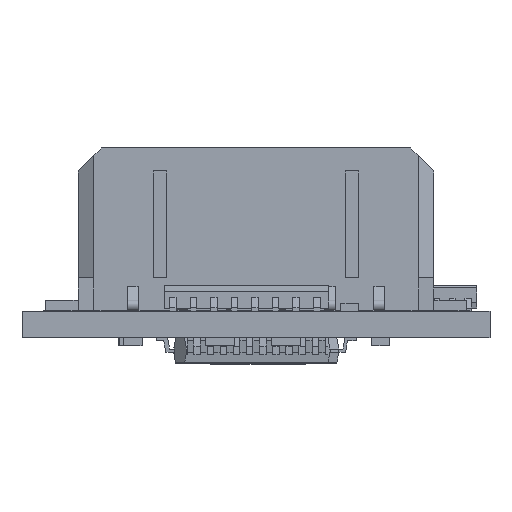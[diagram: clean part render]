
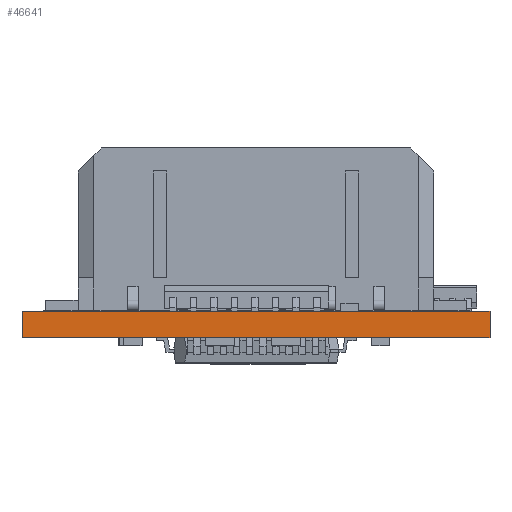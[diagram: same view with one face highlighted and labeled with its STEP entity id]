
A CAD part, front view. The second image highlights one B-rep face of the part: STEP entity #46641.
In plain terms, the highlighted planar face has unit normal (0, -1, 0).
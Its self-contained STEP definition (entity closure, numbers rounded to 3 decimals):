
#529 = EDGE_CURVE ( 'NONE', #20740, #38614, #34700, .T. ) ;
#731 = EDGE_LOOP ( 'NONE', ( #20322, #18443, #30630, #37897 ) ) ;
#2064 = CARTESIAN_POINT ( 'NONE',  ( -9.267, -9.237, 1.6 ) ) ;
#2341 = LINE ( 'NONE', #16296, #41441 ) ;
#2588 = DIRECTION ( 'NONE',  ( 0., 0., -1. ) ) ;
#3253 = CARTESIAN_POINT ( 'NONE',  ( -9.267, -9.237, 1.6 ) ) ;
#3573 = VECTOR ( 'NONE', #2588, 1000. ) ;
#8777 = CARTESIAN_POINT ( 'NONE',  ( -9.267, -9.237, 1.6 ) ) ;
#10636 = LINE ( 'NONE', #2064, #19818 ) ;
#11295 = CARTESIAN_POINT ( 'NONE',  ( -9.267, -9.237, 1.6 ) ) ;
#15263 = DIRECTION ( 'NONE',  ( 0., 0., 1. ) ) ;
#16296 = CARTESIAN_POINT ( 'NONE',  ( 19.233, -9.237, 1.6 ) ) ;
#16495 = CARTESIAN_POINT ( 'NONE',  ( 19.233, -9.237, 0. ) ) ;
#18443 = ORIENTED_EDGE ( 'NONE', *, *, #31318, .F. ) ;
#19818 = VECTOR ( 'NONE', #25465, 1000. ) ;
#20322 = ORIENTED_EDGE ( 'NONE', *, *, #32205, .T. ) ;
#20740 = VERTEX_POINT ( 'NONE', #8777 ) ;
#25465 = DIRECTION ( 'NONE',  ( 1., 0., 0. ) ) ;
#26516 = VERTEX_POINT ( 'NONE', #16495 ) ;
#28480 = LINE ( 'NONE', #46358, #47990 ) ;
#28688 = VERTEX_POINT ( 'NONE', #45204 ) ;
#30252 = AXIS2_PLACEMENT_3D ( 'NONE', #11295, #38568, #15263 ) ;
#30630 = ORIENTED_EDGE ( 'NONE', *, *, #36945, .F. ) ;
#31318 = EDGE_CURVE ( 'NONE', #28688, #26516, #2341, .T. ) ;
#32205 = EDGE_CURVE ( 'NONE', #38614, #26516, #28480, .T. ) ;
#34700 = LINE ( 'NONE', #3253, #3573 ) ;
#36945 = EDGE_CURVE ( 'NONE', #20740, #28688, #10636, .T. ) ;
#37897 = ORIENTED_EDGE ( 'NONE', *, *, #529, .T. ) ;
#38568 = DIRECTION ( 'NONE',  ( 0., 1., 0. ) ) ;
#38614 = VERTEX_POINT ( 'NONE', #49476 ) ;
#41441 = VECTOR ( 'NONE', #47430, 1000. ) ;
#45204 = CARTESIAN_POINT ( 'NONE',  ( 19.233, -9.237, 1.6 ) ) ;
#46255 = PLANE ( 'NONE',  #30252 ) ;
#46358 = CARTESIAN_POINT ( 'NONE',  ( -9.267, -9.237, 0. ) ) ;
#46641 = ADVANCED_FACE ( 'NONE', ( #49301 ), #46255, .F. ) ;
#47430 = DIRECTION ( 'NONE',  ( 0., 0., -1. ) ) ;
#47990 = VECTOR ( 'NONE', #50250, 1000. ) ;
#49301 = FACE_OUTER_BOUND ( 'NONE', #731, .T. ) ;
#49476 = CARTESIAN_POINT ( 'NONE',  ( -9.267, -9.237, 0. ) ) ;
#50250 = DIRECTION ( 'NONE',  ( 1., 0., 0. ) ) ;
